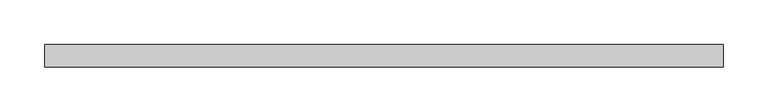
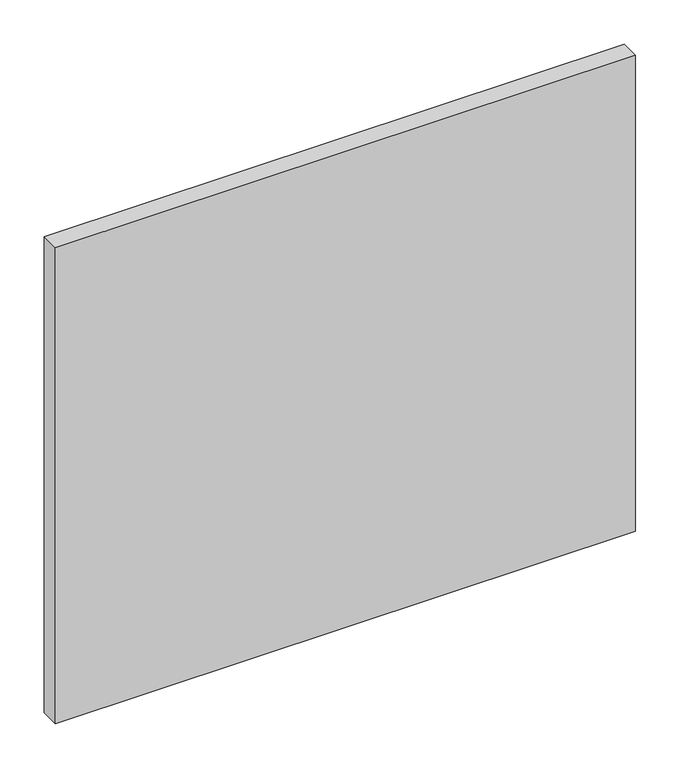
"""IFC4 building model written with IfcOpenShell, lengths in millimetres: plate geometry, 系统嵌板 : 玻璃."""

from ifc_helpers import new_model, si_unit, origin, origin_with_axes, place, context, project, spatial, polyline, outline, extrude, source, transform, mapped, element, save


def plate_7ff01385(model_context):
    return source(origin(), model_context, "Body", "SweptSolid", [
        extrude(outline(polyline([(377.5, -12.5), (-377.5, -12.5), (-377.5, 12.5), (377.5, 12.5), (377.5, -12.5)])), origin_with_axes(), (0.0, 0.0, 1.0), 655.0),
    ])


if __name__ == "__main__":
    model = new_model("IFC4")
    model_context = context("Model", 3, world=origin())
    ifc_project = project(units=[si_unit("LENGTHUNIT", "METRE", prefix="MILLI")], contexts=[model_context])
    site = spatial("IfcSite", under=ifc_project)
    building = spatial("IfcBuilding", under=site)
    placement = place(None, origin())
    plate_shape = plate_7ff01385(model_context)
    element("IfcPlate", 1, ObjectType="系统嵌板 : 玻璃", at=placement, inside=building, context=model_context, shape_type="MappedRepresentation", body=[
        mapped(plate_shape, transform((0.0, 0.0, 0.0), x_axis=(1.0, 0.0, 0.0), y_axis=(0.0, 1.0, 0.0), z_axis=(0.0, 0.0, 1.0))),
    ])
    save(model, "model.ifc")
